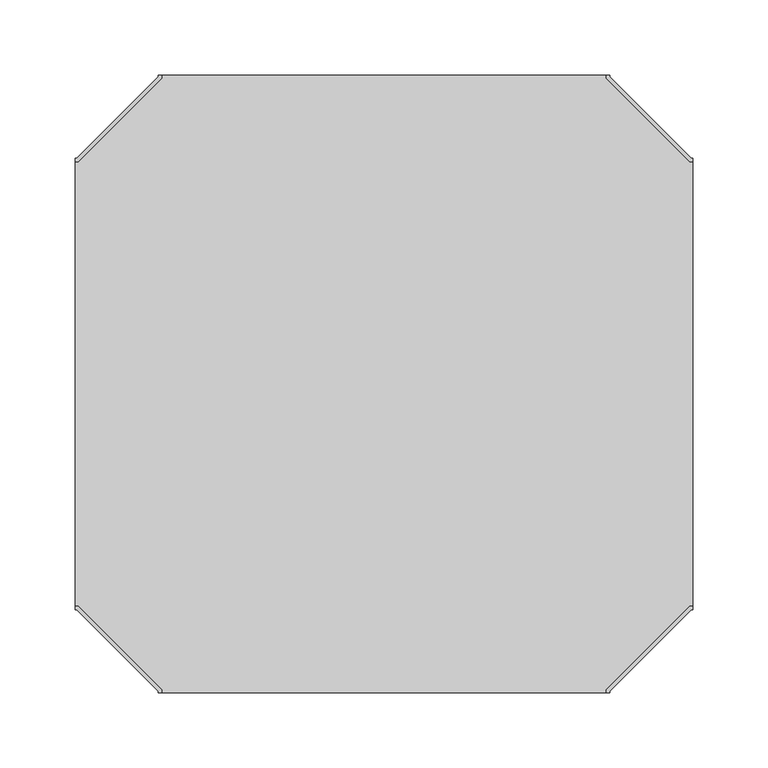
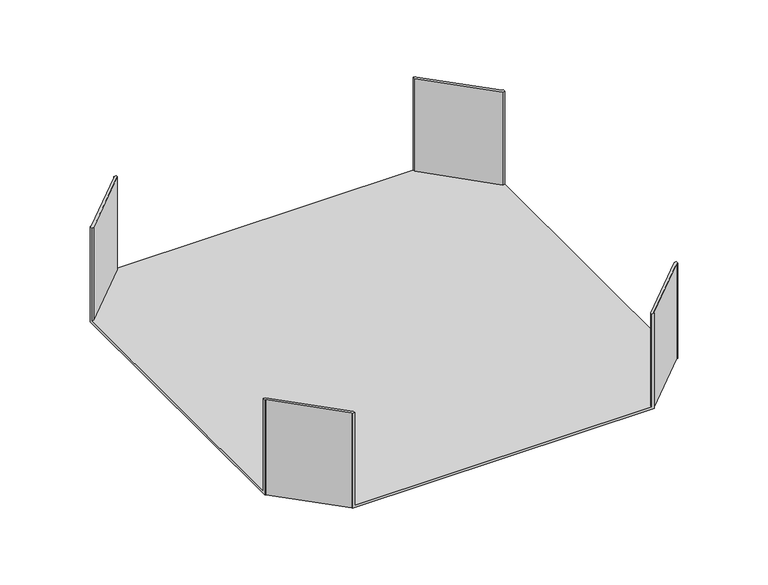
"""IFC4 building model written with IfcOpenShell, lengths in millimetres: cable carrier fitting geometry, BAKS_Horizontal cross over : CZKJ_H100."""

from ifc_helpers import new_model, si_unit, origin, place, context, project, spatial, faceted_brep, source, transform, mapped, element, save


def cable_carrier_fitting_5f227b89(model_context):
    return source(origin(), model_context, "Body", "Brep", [
        faceted_brep([(-147.46, -202.9478976, 50.0), (-202.9478976, -147.46, 50.0), (-205.0, -147.46, 50.0), (-205.0, -150.0, 50.0), (-204.0, -150.0, 50.0), (-150.0, -204.0, 50.0), (-150.0, -205.0, 50.0), (-147.46, -205.0, 50.0), (147.46, -202.9478976, 50.0), (147.46, -205.0, 50.0), (150.0, -205.0, 50.0), (150.0, -204.0, 50.0), (204.0, -150.0, 50.0), (205.0, -150.0, 50.0), (205.0, -147.46, 50.0), (202.9478976, -147.46, 50.0), (-147.46, 202.9478976, 50.0), (-147.46, 205.0, 50.0), (-150.0, 205.0, 50.0), (-150.0, 204.0, 50.0), (-204.0, 150.0, 50.0), (-205.0, 150.0, 50.0), (-205.0, 147.46, 50.0), (-202.9478976, 147.46, 50.0), (147.46, 202.9478976, 50.0), (202.9478976, 147.46, 50.0), (205.0, 147.46, 50.0), (205.0, 150.0, 50.0), (204.0, 150.0, 50.0), (150.0, 204.0, 50.0), (150.0, 205.0, 50.0), (147.46, 205.0, 50.0), (-150.0, -205.0, -50.0), (-150.0, -204.0, -50.0), (-204.0, -150.0, -50.0), (-205.0, -150.0, -50.0), (-205.0, 150.0, -50.0), (-204.0, 150.0, -50.0), (-150.0, 204.0, -50.0), (-150.0, 205.0, -50.0), (150.0, 205.0, -50.0), (150.0, 204.0, -50.0), (204.0, 150.0, -50.0), (205.0, 150.0, -50.0), (205.0, -150.0, -50.0), (204.0, -150.0, -50.0), (150.0, -204.0, -50.0), (150.0, -205.0, -50.0), (-147.46, -202.9478976, -47.46), (-202.9478976, -147.46, -47.46), (-205.0, -147.46, -47.46), (-205.0, 147.46, -47.46), (-204.0, -150.0, -47.46), (-150.0, -204.0, -47.46), (147.46, -205.0, -47.46), (-147.46, -205.0, -47.46), (150.0, -204.0, -47.46), (204.0, -150.0, -47.46), (205.0, 147.46, -47.46), (205.0, -147.46, -47.46), (202.9478976, -147.46, -47.46), (147.46, -202.9478976, -47.46), (-147.46, 202.9478976, -47.46), (-147.46, 205.0, -47.46), (147.46, 205.0, -47.46), (-150.0, 204.0, -47.46), (-204.0, 150.0, -47.46), (-202.9478976, 147.46, -47.46), (147.46, 202.9478976, -47.46), (202.9478976, 147.46, -47.46), (204.0, 150.0, -47.46), (150.0, 204.0, -47.46)], [[[0, 1, 2, 3, 4, 5, 6, 7]], [[8, 9, 10, 11, 12, 13, 14, 15]], [[16, 17, 18, 19, 20, 21, 22, 23]], [[24, 25, 26, 27, 28, 29, 30, 31]], [[32, 33, 34, 35, 36, 37, 38, 39, 40, 41, 42, 43, 44, 45, 46, 47]], [[1, 0, 48, 49]], [[2, 1, 49, 50]], [[3, 2, 50, 51, 22, 21, 36, 35]], [[4, 3, 35, 34, 52]], [[5, 4, 52, 34, 33, 53]], [[32, 6, 5, 53, 33]], [[7, 6, 32, 47, 10, 9, 54, 55]], [[0, 7, 55, 48]], [[12, 11, 56, 46, 45, 57]], [[44, 13, 12, 57, 45]], [[14, 13, 44, 43, 27, 26, 58, 59]], [[15, 14, 59, 60]], [[8, 15, 60, 61]], [[9, 8, 61, 54]], [[11, 10, 47, 46, 56]], [[17, 16, 62, 63]], [[18, 17, 63, 64, 31, 30, 40, 39]], [[19, 18, 39, 38, 65]], [[20, 19, 65, 38, 37, 66]], [[36, 21, 20, 66, 37]], [[23, 22, 51, 67]], [[16, 23, 67, 62]], [[25, 24, 68, 69]], [[26, 25, 69, 58]], [[28, 27, 43, 42, 70]], [[29, 28, 70, 42, 41, 71]], [[40, 30, 29, 71, 41]], [[24, 31, 64, 68]], [[55, 54, 61, 60, 59, 58, 69, 68, 64, 63, 62, 67, 51, 50, 49, 48]]]),
    ])


if __name__ == "__main__":
    model = new_model("IFC4")
    model_context = context("Model", 3, world=origin())
    ifc_project = project(units=[si_unit("LENGTHUNIT", "METRE", prefix="MILLI")], contexts=[model_context])
    site = spatial("IfcSite", under=ifc_project)
    building = spatial("IfcBuilding", under=site)
    placement = place(None, origin())
    cable_carrier_fitting_shape = cable_carrier_fitting_5f227b89(model_context)
    element("IfcCableCarrierFitting", 1, ObjectType="BAKS_Horizontal cross over : CZKJ_H100", at=placement, inside=building, context=model_context, shape_type="MappedRepresentation", body=[
        mapped(cable_carrier_fitting_shape, transform((0.0, 0.0, 0.0), x_axis=(1.0, 0.0, 0.0), y_axis=(0.0, 1.0, 0.0), z_axis=(0.0, 0.0, 1.0))),
    ])
    save(model, "model.ifc")
